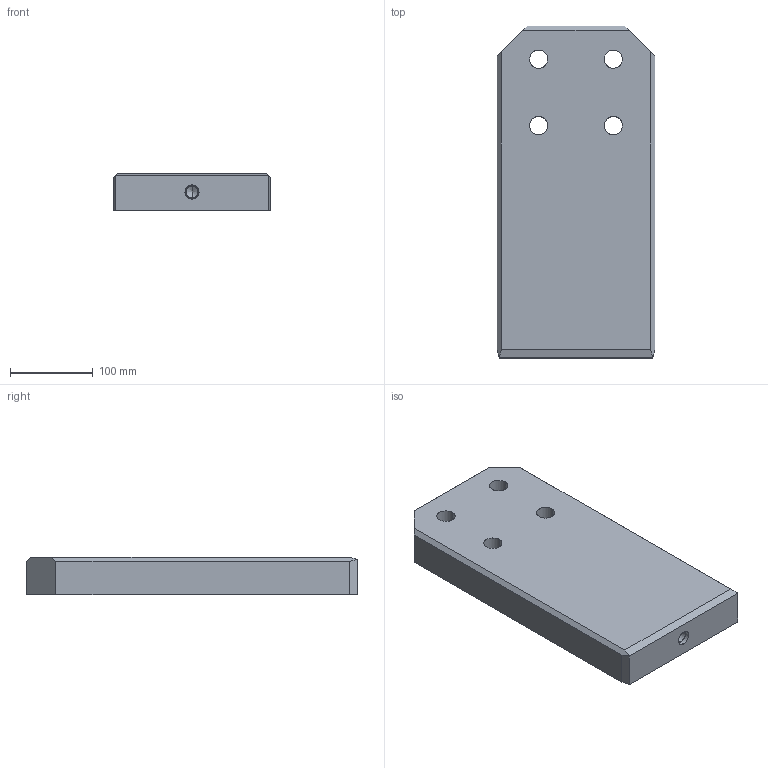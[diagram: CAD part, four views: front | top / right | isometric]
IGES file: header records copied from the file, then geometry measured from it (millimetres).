
Start section: START RECORD GO HERE.
Global section: file name: A927-190X400X45.igs; native system: DASSAULT SYSTEMES CATIA V5 R20 - www.3ds.com; preprocessor: CATIA Version 5 Release 20 ; author: Utente; organization: NB04-ASUS; date: 20200408.202114; units: millimetre
Bounding box: 190 x 400 x 45 mm (x, y, z)
Surface area: 212070.1 mm2 (no closed solid volume)
Topology: 0 solids, 0 shells, 52 faces, 242 edges, 240 vertices
Faces by surface type: revolution 32, extrusion 20
